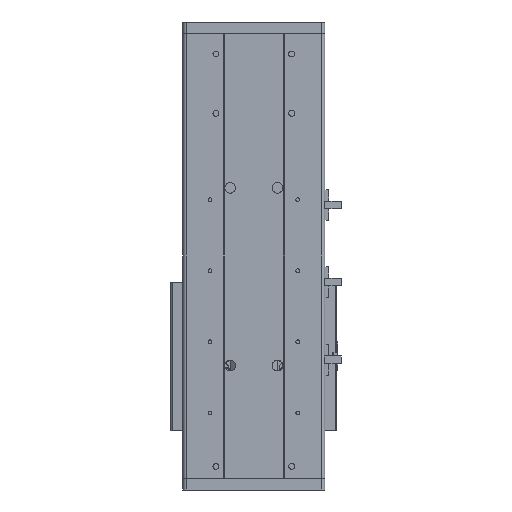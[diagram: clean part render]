
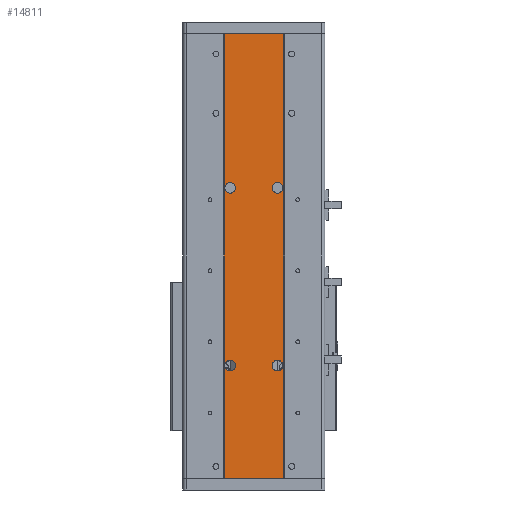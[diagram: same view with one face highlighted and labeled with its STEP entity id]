
A CAD part, front view. The second image highlights one B-rep face of the part: STEP entity #14811.
In plain terms, the highlighted planar face has unit normal (0, -1, 0).
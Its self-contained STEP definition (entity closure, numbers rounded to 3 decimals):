
#786 = EDGE_CURVE ( 'NONE', #65298, #58726, #1894, .T. ) ;
#875 = DIRECTION ( 'NONE',  ( 0., 1., 0. ) ) ;
#1330 = CARTESIAN_POINT ( 'NONE',  ( 35., 1., 0. ) ) ;
#1894 = CIRCLE ( 'NONE', #27611, 4.5 ) ;
#2136 = ORIENTED_EDGE ( 'NONE', *, *, #144239, .T. ) ;
#3920 = CIRCLE ( 'NONE', #56513, 4.5 ) ;
#8202 = DIRECTION ( 'NONE',  ( 0., 0., 1. ) ) ;
#12771 = PLANE ( 'NONE',  #73754 ) ;
#14714 = EDGE_CURVE ( 'NONE', #23262, #80808, #105241, .T. ) ;
#14811 = ADVANCED_FACE ( 'NONE', ( #50271, #137072, #20146, #80324, #106947 ), #12771, .F. ) ;
#17018 = CIRCLE ( 'NONE', #71001, 4.5 ) ;
#20146 = FACE_BOUND ( 'NONE', #139965, .T. ) ;
#23262 = VERTEX_POINT ( 'NONE', #90062 ) ;
#24172 = DIRECTION ( 'NONE',  ( 0., 0., 1. ) ) ;
#25364 = LINE ( 'NONE', #42174, #142179 ) ;
#27611 = AXIS2_PLACEMENT_3D ( 'NONE', #35746, #114823, #47072 ) ;
#29532 = ORIENTED_EDGE ( 'NONE', *, *, #786, .T. ) ;
#33237 = CARTESIAN_POINT ( 'NONE',  ( 80., 1., 90.5 ) ) ;
#34258 = EDGE_CURVE ( 'NONE', #122941, #130374, #25364, .T. ) ;
#34406 = DIRECTION ( 'NONE',  ( 0., 1., 0. ) ) ;
#35317 = DIRECTION ( 'NONE',  ( 0., 0., 1. ) ) ;
#35746 = CARTESIAN_POINT ( 'NONE',  ( 80., 1., 95. ) ) ;
#37144 = VERTEX_POINT ( 'NONE', #134075 ) ;
#37642 = VERTEX_POINT ( 'NONE', #51339 ) ;
#42035 = EDGE_CURVE ( 'NONE', #37144, #37642, #84108, .T. ) ;
#42174 = CARTESIAN_POINT ( 'NONE',  ( 35., 1., 0. ) ) ;
#43049 = CARTESIAN_POINT ( 'NONE',  ( 35., 1., 0. ) ) ;
#47072 = DIRECTION ( 'NONE',  ( 0., 0., 1. ) ) ;
#47538 = CARTESIAN_POINT ( 'NONE',  ( 35., 1., 375. ) ) ;
#50271 = FACE_BOUND ( 'NONE', #102857, .T. ) ;
#51339 = CARTESIAN_POINT ( 'NONE',  ( 40., 1., 240.5 ) ) ;
#52228 = CARTESIAN_POINT ( 'NONE',  ( 80., 1., 95. ) ) ;
#53197 = EDGE_CURVE ( 'NONE', #74060, #81988, #120298, .T. ) ;
#55558 = EDGE_CURVE ( 'NONE', #74060, #122941, #62877, .T. ) ;
#55849 = CARTESIAN_POINT ( 'NONE',  ( 80., 1., 245. ) ) ;
#56513 = AXIS2_PLACEMENT_3D ( 'NONE', #52228, #131368, #63503 ) ;
#57117 = ORIENTED_EDGE ( 'NONE', *, *, #53197, .T. ) ;
#57479 = EDGE_CURVE ( 'NONE', #129491, #85156, #142555, .T. ) ;
#57812 = DIRECTION ( 'NONE',  ( 0., 1., 0. ) ) ;
#58469 = DIRECTION ( 'NONE',  ( -1., 0., 0. ) ) ;
#58569 = CARTESIAN_POINT ( 'NONE',  ( 40., 1., 99.5 ) ) ;
#58726 = VERTEX_POINT ( 'NONE', #129036 ) ;
#60119 = CARTESIAN_POINT ( 'NONE',  ( 40., 1., 245. ) ) ;
#62877 = LINE ( 'NONE', #73817, #123101 ) ;
#63503 = DIRECTION ( 'NONE',  ( 0., 0., 1. ) ) ;
#63790 = ORIENTED_EDGE ( 'NONE', *, *, #55558, .F. ) ;
#64506 = DIRECTION ( 'NONE',  ( 0., 1., 0. ) ) ;
#64952 = EDGE_LOOP ( 'NONE', ( #2136, #95775, #63790, #57117 ) ) ;
#65298 = VERTEX_POINT ( 'NONE', #33237 ) ;
#67186 = DIRECTION ( 'NONE',  ( 0., 0., 1. ) ) ;
#67331 = ORIENTED_EDGE ( 'NONE', *, *, #14714, .T. ) ;
#68576 = EDGE_CURVE ( 'NONE', #37642, #37144, #144490, .T. ) ;
#71001 = AXIS2_PLACEMENT_3D ( 'NONE', #132267, #64506, #143669 ) ;
#71524 = DIRECTION ( 'NONE',  ( 0., 0., 1. ) ) ;
#72683 = ORIENTED_EDGE ( 'NONE', *, *, #96931, .T. ) ;
#73754 = AXIS2_PLACEMENT_3D ( 'NONE', #1330, #875, #24172 ) ;
#73817 = CARTESIAN_POINT ( 'NONE',  ( 35., 1., 0. ) ) ;
#74060 = VERTEX_POINT ( 'NONE', #98387 ) ;
#74872 = ORIENTED_EDGE ( 'NONE', *, *, #121684, .T. ) ;
#75970 = DIRECTION ( 'NONE',  ( 0., 1., 0. ) ) ;
#76250 = ORIENTED_EDGE ( 'NONE', *, *, #42035, .T. ) ;
#76580 = AXIS2_PLACEMENT_3D ( 'NONE', #55849, #135073, #67186 ) ;
#77633 = CARTESIAN_POINT ( 'NONE',  ( 85., 1., 375. ) ) ;
#79023 = CARTESIAN_POINT ( 'NONE',  ( 35., 1., 375. ) ) ;
#79439 = EDGE_LOOP ( 'NONE', ( #111930, #105297 ) ) ;
#80324 = FACE_BOUND ( 'NONE', #109382, .T. ) ;
#80808 = VERTEX_POINT ( 'NONE', #142906 ) ;
#81988 = VERTEX_POINT ( 'NONE', #77633 ) ;
#84108 = CIRCLE ( 'NONE', #84660, 4.5 ) ;
#84660 = AXIS2_PLACEMENT_3D ( 'NONE', #60119, #139351, #71524 ) ;
#85156 = VERTEX_POINT ( 'NONE', #58569 ) ;
#90062 = CARTESIAN_POINT ( 'NONE',  ( 80., 1., 249.5 ) ) ;
#91201 = CARTESIAN_POINT ( 'NONE',  ( 85., 1., 0. ) ) ;
#95775 = ORIENTED_EDGE ( 'NONE', *, *, #34258, .F. ) ;
#96931 = EDGE_CURVE ( 'NONE', #80808, #23262, #99735, .T. ) ;
#97204 = AXIS2_PLACEMENT_3D ( 'NONE', #102167, #34406, #113540 ) ;
#98387 = CARTESIAN_POINT ( 'NONE',  ( 85., 1., 0. ) ) ;
#98572 = DIRECTION ( 'NONE',  ( 0., 0., 1. ) ) ;
#99735 = CIRCLE ( 'NONE', #97204, 4.5 ) ;
#100268 = EDGE_CURVE ( 'NONE', #85156, #129491, #17018, .T. ) ;
#102167 = CARTESIAN_POINT ( 'NONE',  ( 80., 1., 245. ) ) ;
#102857 = EDGE_LOOP ( 'NONE', ( #74872, #29532 ) ) ;
#105241 = CIRCLE ( 'NONE', #76580, 4.5 ) ;
#105297 = ORIENTED_EDGE ( 'NONE', *, *, #57479, .T. ) ;
#106947 = FACE_OUTER_BOUND ( 'NONE', #64952, .T. ) ;
#108038 = AXIS2_PLACEMENT_3D ( 'NONE', #125571, #57812, #137041 ) ;
#109382 = EDGE_LOOP ( 'NONE', ( #76250, #141965 ) ) ;
#111456 = AXIS2_PLACEMENT_3D ( 'NONE', #143823, #75970, #8202 ) ;
#111930 = ORIENTED_EDGE ( 'NONE', *, *, #100268, .T. ) ;
#113540 = DIRECTION ( 'NONE',  ( 0., 0., 1. ) ) ;
#114823 = DIRECTION ( 'NONE',  ( 0., 1., 0. ) ) ;
#120298 = LINE ( 'NONE', #91201, #146874 ) ;
#121684 = EDGE_CURVE ( 'NONE', #58726, #65298, #3920, .T. ) ;
#122941 = VERTEX_POINT ( 'NONE', #43049 ) ;
#123101 = VECTOR ( 'NONE', #127894, 1000. ) ;
#124274 = VECTOR ( 'NONE', #58469, 1000. ) ;
#125571 = CARTESIAN_POINT ( 'NONE',  ( 40., 1., 245. ) ) ;
#127847 = LINE ( 'NONE', #47538, #124274 ) ;
#127894 = DIRECTION ( 'NONE',  ( -1., 0., 0. ) ) ;
#129036 = CARTESIAN_POINT ( 'NONE',  ( 80., 1., 99.5 ) ) ;
#129491 = VERTEX_POINT ( 'NONE', #135448 ) ;
#130374 = VERTEX_POINT ( 'NONE', #79023 ) ;
#131368 = DIRECTION ( 'NONE',  ( 0., 1., 0. ) ) ;
#132267 = CARTESIAN_POINT ( 'NONE',  ( 40., 1., 95. ) ) ;
#134075 = CARTESIAN_POINT ( 'NONE',  ( 40., 1., 249.5 ) ) ;
#135073 = DIRECTION ( 'NONE',  ( 0., 1., 0. ) ) ;
#135448 = CARTESIAN_POINT ( 'NONE',  ( 40., 1., 90.5 ) ) ;
#137041 = DIRECTION ( 'NONE',  ( 0., 0., 1. ) ) ;
#137072 = FACE_BOUND ( 'NONE', #79439, .T. ) ;
#139351 = DIRECTION ( 'NONE',  ( 0., 1., 0. ) ) ;
#139965 = EDGE_LOOP ( 'NONE', ( #67331, #72683 ) ) ;
#141965 = ORIENTED_EDGE ( 'NONE', *, *, #68576, .T. ) ;
#142179 = VECTOR ( 'NONE', #98572, 1000. ) ;
#142555 = CIRCLE ( 'NONE', #111456, 4.5 ) ;
#142906 = CARTESIAN_POINT ( 'NONE',  ( 80., 1., 240.5 ) ) ;
#143669 = DIRECTION ( 'NONE',  ( 0., 0., 1. ) ) ;
#143823 = CARTESIAN_POINT ( 'NONE',  ( 40., 1., 95. ) ) ;
#144239 = EDGE_CURVE ( 'NONE', #81988, #130374, #127847, .T. ) ;
#144490 = CIRCLE ( 'NONE', #108038, 4.5 ) ;
#146874 = VECTOR ( 'NONE', #35317, 1000. ) ;
